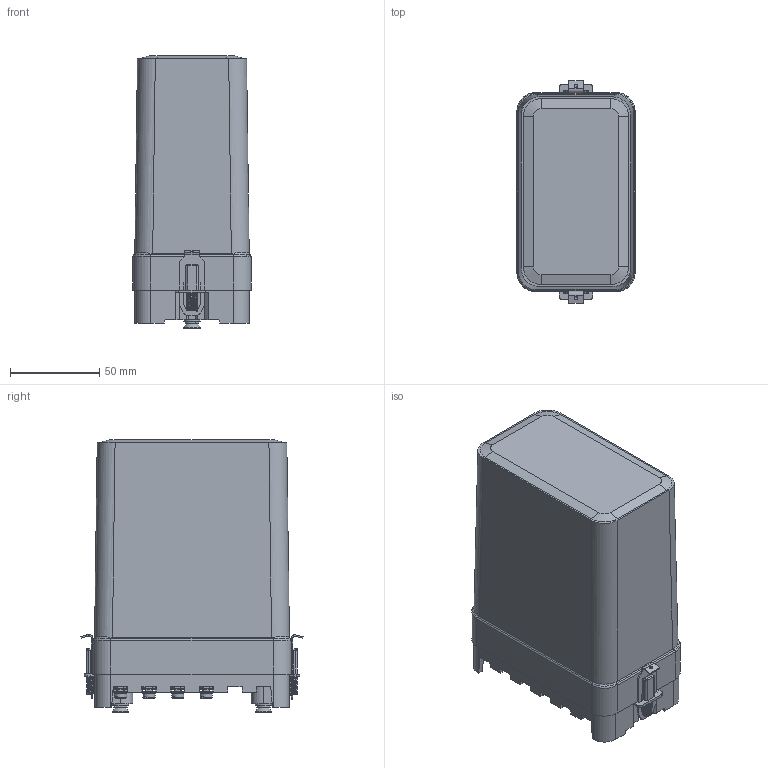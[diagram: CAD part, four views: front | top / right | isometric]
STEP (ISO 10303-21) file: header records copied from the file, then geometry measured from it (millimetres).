
FILE_DESCRIPTION(('STEP AP214'), '1');
FILE_NAME('ﾐﾒ40, ﾐﾍ50 鈞蓖裹 粨炅黑', '', ('UNSPECIFIED'), ('UNSPECIFIED'), 'ASCON STEP Converter 1.3', 'ASCON Math Kernel', '');
FILE_SCHEMA(('AUTOMOTIVE_DESIGN { 1 0 10303 214 3 1 1}'));
Length unit declared in the file: millimetre
Bounding box: 66 x 124.52 x 152.15 mm (x, y, z)
Volume: 162642.7 mm3; surface area: 128385.9 mm2
Topology: 4 solids, 10 shells, 1578 faces, 4409 edges, 2818 vertices
Faces by surface type: plane 968, cylinder 420, torus 130, bspline 42, cone 16, sphere 2
Full cylindrical faces by diameter (mm): 2 x2, 3.242 x8, 3.5 x2, 4 x18, 4.2 x8, 4.3 x10, 5 x2, 5.3 x4, 5.5 x14, 8 x10, 9 x2, 9.3 x2
Entity records: 76312 total; most frequent: CARTESIAN_POINT 23432, ORIENTED_EDGE 8550, DIRECTION 8113, EDGE_CURVE 4281, VERTEX_POINT 2814, LINE 2735, VECTOR 2735, AXIS2_PLACEMENT_3D 2689
